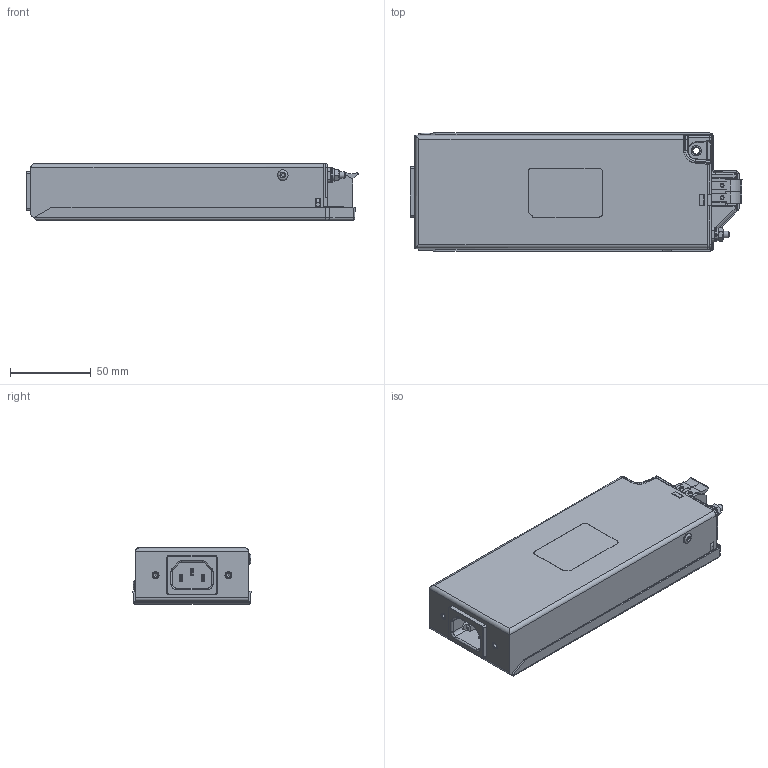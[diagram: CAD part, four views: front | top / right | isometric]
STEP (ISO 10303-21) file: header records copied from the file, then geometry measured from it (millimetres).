
FILE_DESCRIPTION(/* description */ (''),/* implementation_level */ '2;1');
FILE_NAME(/* name */ 'C:\Users\Christian.Ackermann\OneDrive - Schaffner EMV AG\Desktop\UMA_customerSTEP\FN266x-10_15-103.stp',/* time_stamp */ '2021-11-30T11:27:41+01:00',/* author */ ('Christian.Ackermann'),/* organization */ (''),/* preprocessor_version */ 'ST-DEVELOPER v18.1',/* originating_system */ 'Autodesk Inventor 2020',/* authorisation */ '');
FILE_SCHEMA (('AUTOMOTIVE_DESIGN { 1 0 10303 214 3 1 1 }'));
Length unit declared in the file: millimetre
Products named in the file (1): FN266x-10_15-103
Bounding box: 205.31 x 73 x 35.06 mm (x, y, z)
Volume: 441607.8 mm3; surface area: 83244.9 mm2
Topology: 3 solids, 3 shells, 1064 faces, 2783 edges, 1766 vertices
Faces by surface type: plane 616, cylinder 298, bspline 85, cone 28, torus 27, sphere 10
Full cylindrical faces by diameter (mm): 0.8 x13, 2 x4, 2.2 x1, 2.459 x2, 4 x2, 4.2 x1, 4.25 x2, 4.3 x1, 6.4 x1, 6.5 x2, 8.39 x2, 8.74 x3, 9 x1
Entity records: 36052 total; most frequent: CARTESIAN_POINT 8419, ORIENTED_EDGE 5554, DIRECTION 5441, EDGE_CURVE 2777, LINE 1871, VECTOR 1871, AXIS2_PLACEMENT_3D 1785, VERTEX_POINT 1766
